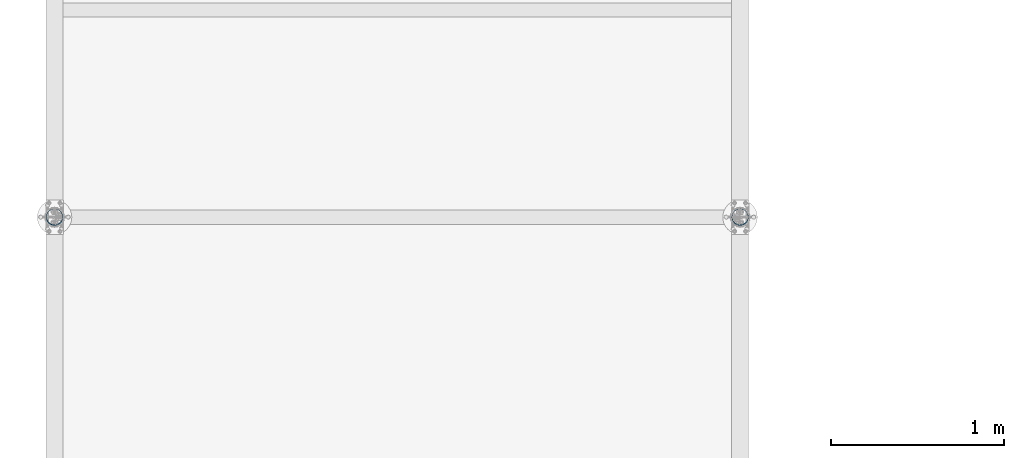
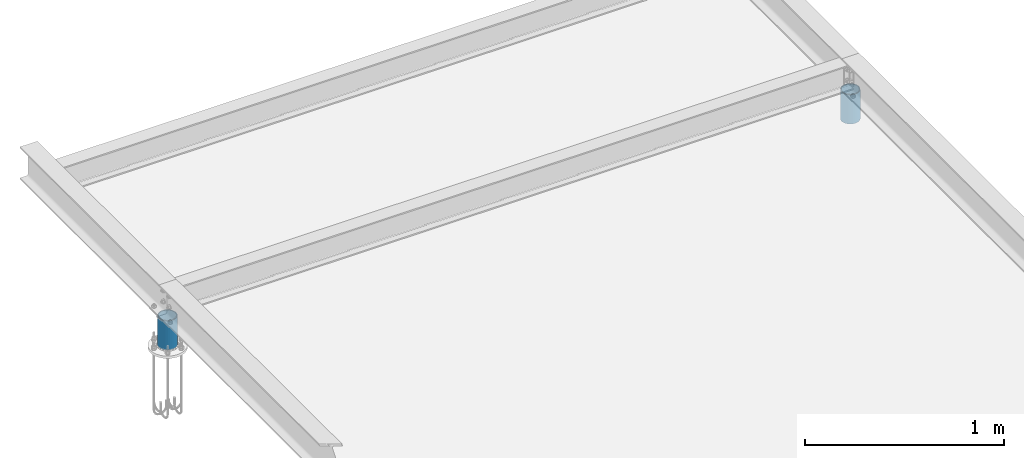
# One storey, part 3 of 84: 2 columns.
"""IFC4 building model written with IfcOpenShell, lengths in metres."""

import ifcopenshell
import ifcopenshell.guid

model = None  # the IFC model being written
_history = None  # IfcOwnerHistory: only IFC2X3 demands one
_inside = {}  # id of a spatial element -> (the spatial element, [elements in it])
_under = {}  # id of a project, library or spatial element -> (it, [spatial elements below it])
_declared = {}  # id of a project -> (the project, [libraries it declares])
_typed = {}  # id of a type object -> (the type object, [elements of that type])
_made_of = {}  # id of a material, layer set ... -> (it, [elements and type objects made of it])


def new_model(schema):
    """Start an empty IFC model of exactly this schema.

    Asked for "IFC4X3", IfcOpenShell would pick the latest addendum, in which some entities
    have other attributes; the version numbers below select the first issue.
    IFC2X3 requires an IfcOwnerHistory on every rooted entity: one is made here for all.
    """
    global model, _history
    if schema == "IFC4X3":
        model = ifcopenshell.file(schema_version=(4, 3, 0, 0))
    else:
        model = ifcopenshell.file(schema=schema)
    _inside.clear()
    _under.clear()
    _declared.clear()
    _typed.clear()
    _made_of.clear()
    _history = None
    if model.schema == "IFC2X3":
        org = make("IfcOrganization", Name="unknown")
        user = make(
            "IfcPersonAndOrganization",
            ThePerson=make("IfcPerson", FamilyName="unknown"),
            TheOrganization=org,
        )
        app = make(
            "IfcApplication",
            ApplicationDeveloper=org,
            Version="unknown",
            ApplicationFullName="unknown",
            ApplicationIdentifier="unknown",
        )
        _history = make(
            "IfcOwnerHistory",
            OwningUser=user,
            OwningApplication=app,
            ChangeAction="ADDED",
            CreationDate=0,
        )
    return model


def make(cls, **values):
    """One entity of the class cls with the attributes given. An attribute that is None is left unset."""
    return model.create_entity(
        cls, **{name: value for name, value in values.items() if value is not None}
    )


def rooted(cls, **values):
    """An entity with a GlobalId (a new one), such as an element, a storey or a relation."""
    return make(cls, GlobalId=ifcopenshell.guid.new(), OwnerHistory=_history, **values)


def si_unit(unit_type, name, prefix=None):
    """IfcSIUnit, for example si_unit("LENGTHUNIT", "METRE", prefix="MILLI")."""
    return make("IfcSIUnit", UnitType=unit_type, Prefix=prefix, Name=name)


def assignment(units):
    """IfcUnitAssignment: the units of a project."""
    return None if units is None else make("IfcUnitAssignment", Units=units)


def point(xyz):
    """IfcCartesianPoint."""
    return None if xyz is None else make("IfcCartesianPoint", Coordinates=xyz)


def direction(xyz):
    """IfcDirection."""
    return None if xyz is None else make("IfcDirection", DirectionRatios=xyz)


def frame(location, z_axis=None, x_axis=None):
    """IfcAxis2Placement3D, a coordinate frame: its origin and axes. An axis left out is left unset."""
    return make(
        "IfcAxis2Placement3D",
        Location=point(location),
        Axis=direction(z_axis),
        RefDirection=direction(x_axis),
    )


def frame_2d(location, x_axis=None):
    """IfcAxis2Placement2D, a coordinate frame in the plane: its origin and x axis."""
    return make(
        "IfcAxis2Placement2D", Location=point(location), RefDirection=direction(x_axis)
    )


def origin_with_axes():
    """The frame at (0, 0, 0) with the z axis (0, 0, 1) and the x axis (1, 0, 0) written out."""
    return frame((0.0, 0.0, 0.0), z_axis=(0.0, 0.0, 1.0), x_axis=(1.0, 0.0, 0.0))


def origin_2d_with_axis():
    """The frame at (0, 0) in the plane with the x axis (1, 0) written out."""
    return frame_2d((0.0, 0.0), x_axis=(1.0, 0.0))


def place(relative_to, where):
    """IfcLocalPlacement: puts the frame where relative to a parent placement (None: the world)."""
    return make(
        "IfcLocalPlacement", PlacementRelTo=relative_to, RelativePlacement=where
    )


def context(
    kind, dimensions, precision=None, world=None, true_north=None, identifier=None
):
    """IfcGeometricRepresentationContext, for example the 3D "Model" context."""
    return make(
        "IfcGeometricRepresentationContext",
        ContextIdentifier=identifier,
        ContextType=kind,
        CoordinateSpaceDimension=dimensions,
        Precision=precision,
        WorldCoordinateSystem=world,
        TrueNorth=true_north,
    )


def project(units=None, contexts=None):
    """IfcProject with its units and contexts."""
    return rooted(
        "IfcProject",
        Name="project",
        RepresentationContexts=contexts,
        UnitsInContext=assignment(units),
    )


def spatial(cls, under=None, at=None, **own):
    """A site, building, storey or space (cls), placed at a placement, below another one or the project."""
    s = rooted(cls, ObjectPlacement=at, **own)
    if under is not None:
        _under.setdefault(under.id(), (under, []))[1].append(s)
    return s


def profile(cls, at=None, kind="AREA", **sizes):
    """A parametric profile (cls). Its sizes go by their IFC names, for example OverallWidth=200.0."""
    return make(cls, ProfileType=kind, Position=at, **sizes)


def hollow_circle(**sizes):
    """IfcCircleHollowProfileDef."""
    return profile("IfcCircleHollowProfileDef", **sizes)


def i_section(**sizes):
    """IfcIShapeProfileDef."""
    return profile("IfcIShapeProfileDef", **sizes)


def extrude(swept, where, along, depth):
    """IfcExtrudedAreaSolid: the profile swept, set in the frame where, extruded along a direction by depth."""
    return make(
        "IfcExtrudedAreaSolid",
        SweptArea=swept,
        Position=where,
        ExtrudedDirection=direction(along),
        Depth=depth,
    )


def clip(a, b, op="DIFFERENCE"):
    """IfcBooleanClippingResult: the solid a cut by the half space b."""
    return make(
        "IfcBooleanClippingResult", Operator=op, FirstOperand=a, SecondOperand=b
    )


def halfspace(plane, agree):
    """IfcHalfSpaceSolid: all space on one side of the plane z = 0 of the frame plane."""
    return make(
        "IfcHalfSpaceSolid",
        BaseSurface=make("IfcPlane", Position=plane),
        AgreementFlag=agree,
    )


def shape(context_of_items, identifier, shape_type, items):
    """IfcShapeRepresentation: the items that make up one representation, for example the "Body"."""
    return make(
        "IfcShapeRepresentation",
        ContextOfItems=context_of_items,
        RepresentationIdentifier=identifier,
        RepresentationType=shape_type,
        Items=items,
    )


def material(Name=None, Category=None):
    """IfcMaterial."""
    return make("IfcMaterial", Name=Name, Category=Category)


def material_profile(
    of_material, cross_section, Name=None, Category=None, Priority=None
):
    """IfcMaterialProfile: a cross section and its material."""
    return make(
        "IfcMaterialProfile",
        Name=Name,
        Material=of_material,
        Profile=cross_section,
        Priority=Priority,
        Category=Category,
    )


def profile_set(profiles, Name=None, composite=None):
    """IfcMaterialProfileSet."""
    return make(
        "IfcMaterialProfileSet",
        Name=Name,
        MaterialProfiles=profiles,
        CompositeProfile=composite,
    )


def profile_usage(for_profile_set, cardinal=None, extent=None):
    """IfcMaterialProfileSetUsage: how a profile set lies along its element."""
    return make(
        "IfcMaterialProfileSetUsage",
        ForProfileSet=for_profile_set,
        CardinalPoint=cardinal,
        ReferenceExtent=extent,
    )


def made_of(thing, what):
    """Note that an element or type object is made of a material, layer set ...; save() writes the relation."""
    if what is not None:
        _made_of.setdefault(what.id(), (what, []))[1].append(thing)
    return thing


def type_object(cls, material=None, **own):
    """A type object (cls), such as IfcWallType, which elements share."""
    return made_of(rooted(cls, **own), material)


def element(
    cls,
    number,
    at=None,
    inside=None,
    cuts=None,
    type_object=None,
    material=None,
    context=None,
    identifier="Body",
    shape_type=None,
    held_by="IfcProductDefinitionShape",
    body=None,
    shapes=None,
    **own,
):
    """One element of the class cls, such as IfcWall. Its Tag is "e" and its number.

    at: its placement. inside: the storey or other place that contains it. cuts: it is an
    opening in that element (IfcRelVoidsElement). A single representation is given by context,
    identifier, shape_type and body (its items); several are given by shapes. held_by: the class
    of the entity that holds the representations. save() writes the other relations.
    """
    e = rooted(cls, Tag="e%d" % number, ObjectPlacement=at, **own)
    if body is not None:
        shapes = [shape(context, identifier, shape_type, body)]
    if shapes is not None:
        e.Representation = make(held_by, Representations=shapes)
    if inside is not None:
        _inside.setdefault(inside.id(), (inside, []))[1].append(e)
    if cuts is not None:
        rooted(
            "IfcRelVoidsElement", RelatingBuildingElement=cuts, RelatedOpeningElement=e
        )
    if type_object is not None:
        _typed.setdefault(type_object.id(), (type_object, []))[1].append(e)
    return made_of(e, material)


def aggregate(whole, parts):
    """IfcRelAggregates: a whole, such as a stair, and the parts it consists of."""
    return rooted("IfcRelAggregates", RelatingObject=whole, RelatedObjects=parts)


def save(model, path):
    """Write the relations noted so far, then the file.

    IfcRelAggregates (storeys below a building ...), IfcRelContainedInSpatialStructure (elements
    in a storey), IfcRelDefinesByType, IfcRelAssociatesMaterial and IfcRelDeclares: one each for
    every whole, place, type object, material and project.
    """
    for whole, parts in _under.values():
        aggregate(whole, parts)
    for where, things in _inside.values():
        rooted(
            "IfcRelContainedInSpatialStructure",
            RelatedElements=things,
            RelatingStructure=where,
        )
    for kind, things in _typed.values():
        rooted("IfcRelDefinesByType", RelatedObjects=things, RelatingType=kind)
    for what, things in _made_of.values():
        rooted("IfcRelAssociatesMaterial", RelatedObjects=things, RelatingMaterial=what)
    for by, libraries in _declared.values():
        rooted("IfcRelDeclares", RelatingContext=by, RelatedDefinitions=libraries)
    model.write(path)


model = new_model("IFC4")

# Units and contexts
model_context = context("Model", 3, precision=1e-05, world=origin_with_axes())
ifc_project = project(units=[si_unit("LENGTHUNIT", "METRE"), si_unit("AREAUNIT", "SQUARE_METRE"), si_unit("VOLUMEUNIT", "CUBIC_METRE"), si_unit("MASSUNIT", "GRAM", prefix="KILO"), si_unit("TIMEUNIT", "SECOND"), si_unit("PLANEANGLEUNIT", "RADIAN"), si_unit("SOLIDANGLEUNIT", "STERADIAN"), si_unit("THERMODYNAMICTEMPERATUREUNIT", "DEGREE_CELSIUS")], contexts=[model_context])

# Site, building, storey
placement_1 = place(None, origin_with_axes())
site = spatial("IfcSite", under=ifc_project, at=placement_1, Name="Italia", CompositionType="ELEMENT")
building = spatial("IfcBuilding", under=site, at=placement_1, Name="Tettoia", CompositionType="ELEMENT")
storey_placement = place(None, frame((0.0, 0.0, 4.199999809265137), z_axis=(0.0, 0.0, 1.0), x_axis=(1.0, 0.0, 0.0)))
storey = spatial("IfcBuildingStorey", under=building, at=storey_placement, Name="Storey 1", CompositionType="ELEMENT", Elevation=4.199999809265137)

# Columns
ifc_material = material(Name="Acciaio", Category="Acciaio")
ifc_material_profile = material_profile(ifc_material, i_section(OverallWidth=0.082, OverallDepth=0.16, WebThickness=0.005, FlangeThickness=0.0074, FilletRadius=0.009, at=origin_2d_with_axis()), Name="3 IPE160")
ifc_profile_set = profile_set([ifc_material_profile])
ifc_profile_usage_1 = profile_usage(ifc_profile_set, cardinal=1)
column_type_1 = type_object("IfcColumnType", Name="4 CC101x5", PredefinedType="COLUMN", material=ifc_profile_usage_1)
placement_2 = place(placement_1, origin_with_axes())
column_1_placement = place(placement_2, frame((0.099999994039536, 19.82228660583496, 3.899999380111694), z_axis=(0.0, 0.0, 1.0), x_axis=(1.0, 0.0, 0.0)))
element("IfcColumn", 1, at=column_1_placement, inside=storey, type_object=column_type_1, Name="16", context=model_context, shape_type="Clipping", body=[
    clip(clip(extrude(hollow_circle(Radius=0.0505, WallThickness=0.005, at=origin_2d_with_axis()), frame((0.0, 0.0, 0.0), z_axis=(0.0, 0.0, 1.0), x_axis=(0.0, 1.0, 0.0)), (0.0, 0.0, 1.0), 0.4), halfspace(frame((0.0, -0.0022831, 0.115), z_axis=(0.0, 0.0, -1.0), x_axis=(1.0, 0.0, 0.0)), False)), halfspace(frame((0.0, -0.0022831, 0.295002), z_axis=(0.0, 0.0, -1.0), x_axis=(1.0, 0.0, 0.0)), True)),
])
ifc_profile_usage_2 = profile_usage(ifc_profile_set, cardinal=1)
column_type_2 = type_object("IfcColumnType", Name="4 CC101x5", PredefinedType="COLUMN", material=ifc_profile_usage_2)
column_2_placement = place(placement_2, frame((4.069999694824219, 19.82228660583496, 3.899999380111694), z_axis=(0.0, 0.0, 1.0), x_axis=(1.0, 0.0, 0.0)))
element("IfcColumn", 2, at=column_2_placement, inside=storey, type_object=column_type_2, Name="17", context=model_context, shape_type="Clipping", body=[
    clip(clip(extrude(hollow_circle(Radius=0.0505, WallThickness=0.005, at=origin_2d_with_axis()), frame((0.0, 0.0, 0.0), z_axis=(0.0, 0.0, 1.0), x_axis=(0.0, 1.0, 0.0)), (0.0, 0.0, 1.0), 0.4), halfspace(frame((-4.76837e-07, -0.0022831, 0.115), z_axis=(0.0, 0.0, -1.0), x_axis=(1.0, 0.0, 0.0)), False)), halfspace(frame((-4.76837e-07, -0.0022831, 0.295002), z_axis=(0.0, 0.0, -1.0), x_axis=(1.0, 0.0, 0.0)), True)),
])

save(model, "model.ifc")
